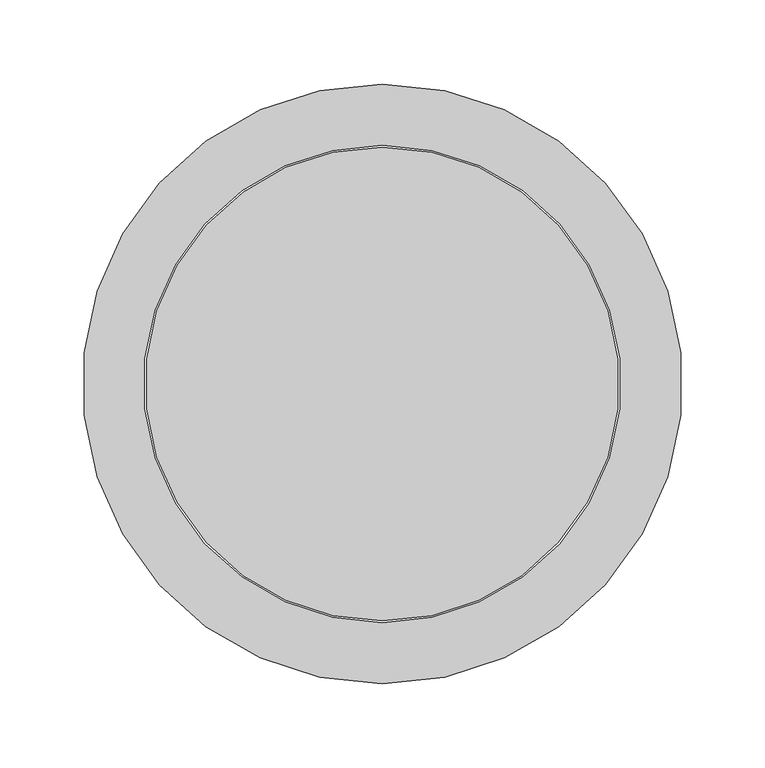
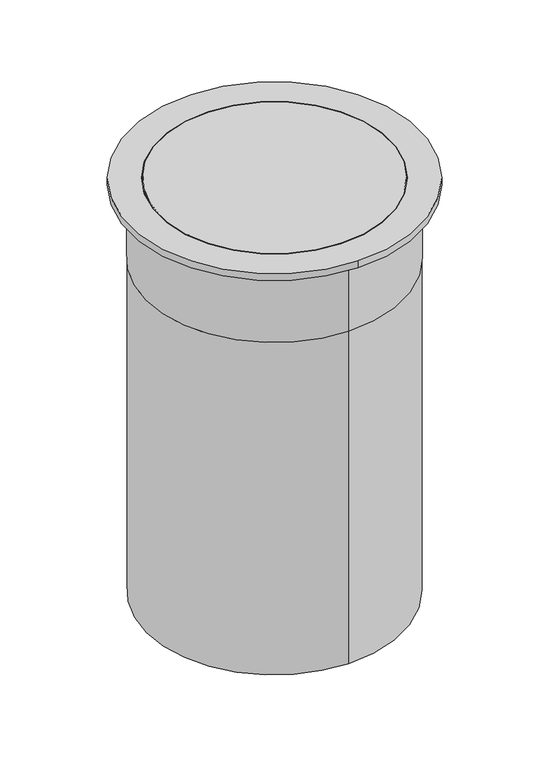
"""IFC4 building model written with IfcOpenShell, lengths in millimetres: valve geometry, Pipelife - Studnia PRO - Teleskop 315 lita : 40.0t/315/400 D400 SN8 lita."""

import ifcopenshell
import ifcopenshell.guid

model = None  # the IFC model being written
_history = None  # IfcOwnerHistory: only IFC2X3 demands one
_inside = {}  # id of a spatial element -> (the spatial element, [elements in it])
_under = {}  # id of a project, library or spatial element -> (it, [spatial elements below it])
_declared = {}  # id of a project -> (the project, [libraries it declares])
_typed = {}  # id of a type object -> (the type object, [elements of that type])
_made_of = {}  # id of a material, layer set ... -> (it, [elements and type objects made of it])


def new_model(schema):
    """Start an empty IFC model of exactly this schema.

    Asked for "IFC4X3", IfcOpenShell would pick the latest addendum, in which some entities
    have other attributes; the version numbers below select the first issue.
    IFC2X3 requires an IfcOwnerHistory on every rooted entity: one is made here for all.
    """
    global model, _history
    if schema == "IFC4X3":
        model = ifcopenshell.file(schema_version=(4, 3, 0, 0))
    else:
        model = ifcopenshell.file(schema=schema)
    _inside.clear()
    _under.clear()
    _declared.clear()
    _typed.clear()
    _made_of.clear()
    _history = None
    if model.schema == "IFC2X3":
        org = make("IfcOrganization", Name="unknown")
        user = make(
            "IfcPersonAndOrganization",
            ThePerson=make("IfcPerson", FamilyName="unknown"),
            TheOrganization=org,
        )
        app = make(
            "IfcApplication",
            ApplicationDeveloper=org,
            Version="unknown",
            ApplicationFullName="unknown",
            ApplicationIdentifier="unknown",
        )
        _history = make(
            "IfcOwnerHistory",
            OwningUser=user,
            OwningApplication=app,
            ChangeAction="ADDED",
            CreationDate=0,
        )
    return model


def make(cls, **values):
    """One entity of the class cls with the attributes given. An attribute that is None is left unset."""
    return model.create_entity(
        cls, **{name: value for name, value in values.items() if value is not None}
    )


def rooted(cls, **values):
    """An entity with a GlobalId (a new one), such as an element, a storey or a relation."""
    return make(cls, GlobalId=ifcopenshell.guid.new(), OwnerHistory=_history, **values)


def si_unit(unit_type, name, prefix=None):
    """IfcSIUnit, for example si_unit("LENGTHUNIT", "METRE", prefix="MILLI")."""
    return make("IfcSIUnit", UnitType=unit_type, Prefix=prefix, Name=name)


def assignment(units):
    """IfcUnitAssignment: the units of a project."""
    return None if units is None else make("IfcUnitAssignment", Units=units)


def point(xyz):
    """IfcCartesianPoint."""
    return None if xyz is None else make("IfcCartesianPoint", Coordinates=xyz)


def direction(xyz):
    """IfcDirection."""
    return None if xyz is None else make("IfcDirection", DirectionRatios=xyz)


def frame(location, z_axis=None, x_axis=None):
    """IfcAxis2Placement3D, a coordinate frame: its origin and axes. An axis left out is left unset."""
    return make(
        "IfcAxis2Placement3D",
        Location=point(location),
        Axis=direction(z_axis),
        RefDirection=direction(x_axis),
    )


def frame_2d(location, x_axis=None):
    """IfcAxis2Placement2D, a coordinate frame in the plane: its origin and x axis."""
    return make(
        "IfcAxis2Placement2D", Location=point(location), RefDirection=direction(x_axis)
    )


def origin():
    """The frame at (0, 0, 0) with its axes left unset."""
    return frame((0.0, 0.0, 0.0))


def origin_2d():
    """The frame at (0, 0) in the plane with its x axis left unset."""
    return frame_2d((0.0, 0.0))


def place(relative_to, where):
    """IfcLocalPlacement: puts the frame where relative to a parent placement (None: the world)."""
    return make(
        "IfcLocalPlacement", PlacementRelTo=relative_to, RelativePlacement=where
    )


def context(
    kind, dimensions, precision=None, world=None, true_north=None, identifier=None
):
    """IfcGeometricRepresentationContext, for example the 3D "Model" context."""
    return make(
        "IfcGeometricRepresentationContext",
        ContextIdentifier=identifier,
        ContextType=kind,
        CoordinateSpaceDimension=dimensions,
        Precision=precision,
        WorldCoordinateSystem=world,
        TrueNorth=true_north,
    )


def project(units=None, contexts=None):
    """IfcProject with its units and contexts."""
    return rooted(
        "IfcProject",
        Name="project",
        RepresentationContexts=contexts,
        UnitsInContext=assignment(units),
    )


def spatial(cls, under=None, at=None, **own):
    """A site, building, storey or space (cls), placed at a placement, below another one or the project."""
    s = rooted(cls, ObjectPlacement=at, **own)
    if under is not None:
        _under.setdefault(under.id(), (under, []))[1].append(s)
    return s


def polyline(points):
    """IfcPolyline through the points."""
    return make("IfcPolyline", Points=[point(p) for p in points])


def circle_curve(where, radius):
    """IfcCircle in the frame where."""
    return make("IfcCircle", Position=where, Radius=radius)


def trimmed(basis, trim1, trim2, sense, master):
    """IfcTrimmedCurve: the piece of a basis curve between two trims."""
    return make(
        "IfcTrimmedCurve",
        BasisCurve=basis,
        Trim1=trim1,
        Trim2=trim2,
        SenseAgreement=sense,
        MasterRepresentation=master,
    )


def segment(curve, same_sense, transition):
    """IfcCompositeCurveSegment."""
    return make(
        "IfcCompositeCurveSegment",
        Transition=transition,
        SameSense=same_sense,
        ParentCurve=curve,
    )


def composite_curve(segments, self_intersect=None):
    """IfcCompositeCurve: segments joined end to end."""
    return make("IfcCompositeCurve", Segments=segments, SelfIntersect=self_intersect)


def outline(outer, holes=None, kind="AREA"):
    """IfcArbitraryClosedProfileDef: a profile drawn as a closed curve; with holes, ...WithVoids."""
    if holes is None:
        return make("IfcArbitraryClosedProfileDef", ProfileType=kind, OuterCurve=outer)
    return make(
        "IfcArbitraryProfileDefWithVoids",
        ProfileType=kind,
        OuterCurve=outer,
        InnerCurves=holes,
    )


def extrude(swept, where, along, depth):
    """IfcExtrudedAreaSolid: the profile swept, set in the frame where, extruded along a direction by depth."""
    return make(
        "IfcExtrudedAreaSolid",
        SweptArea=swept,
        Position=where,
        ExtrudedDirection=direction(along),
        Depth=depth,
    )


def shape(context_of_items, identifier, shape_type, items):
    """IfcShapeRepresentation: the items that make up one representation, for example the "Body"."""
    return make(
        "IfcShapeRepresentation",
        ContextOfItems=context_of_items,
        RepresentationIdentifier=identifier,
        RepresentationType=shape_type,
        Items=items,
    )


def source(mapping_origin, context_of_items, identifier, shape_type, items):
    """IfcRepresentationMap: a shape defined once, which mapped items show again and again."""
    return make(
        "IfcRepresentationMap",
        MappingOrigin=mapping_origin,
        MappedRepresentation=shape(context_of_items, identifier, shape_type, items),
    )


def transform(
    local_origin,
    x_axis=None,
    y_axis=None,
    z_axis=None,
    scale=None,
    scale2=None,
    scale3=None,
    uniform=True,
):
    """IfcCartesianTransformationOperator3D, or its non-uniform kind. x_axis, y_axis, z_axis: its Axis1, 2, 3."""
    if uniform:
        return make(
            "IfcCartesianTransformationOperator3D",
            Axis1=direction(x_axis),
            Axis2=direction(y_axis),
            LocalOrigin=point(local_origin),
            Scale=scale,
            Axis3=direction(z_axis),
        )
    return make(
        "IfcCartesianTransformationOperator3DnonUniform",
        Axis1=direction(x_axis),
        Axis2=direction(y_axis),
        LocalOrigin=point(local_origin),
        Scale=scale,
        Axis3=direction(z_axis),
        Scale2=scale2,
        Scale3=scale3,
    )


def mapped(mapping_source, mapping_target):
    """IfcMappedItem: shows the shape of a source again, moved by a transform."""
    return make(
        "IfcMappedItem", MappingSource=mapping_source, MappingTarget=mapping_target
    )


def made_of(thing, what):
    """Note that an element or type object is made of a material, layer set ...; save() writes the relation."""
    if what is not None:
        _made_of.setdefault(what.id(), (what, []))[1].append(thing)
    return thing


def element(
    cls,
    number,
    at=None,
    inside=None,
    cuts=None,
    type_object=None,
    material=None,
    context=None,
    identifier="Body",
    shape_type=None,
    held_by="IfcProductDefinitionShape",
    body=None,
    shapes=None,
    **own,
):
    """One element of the class cls, such as IfcWall. Its Tag is "e" and its number.

    at: its placement. inside: the storey or other place that contains it. cuts: it is an
    opening in that element (IfcRelVoidsElement). A single representation is given by context,
    identifier, shape_type and body (its items); several are given by shapes. held_by: the class
    of the entity that holds the representations. save() writes the other relations.
    """
    e = rooted(cls, Tag="e%d" % number, ObjectPlacement=at, **own)
    if body is not None:
        shapes = [shape(context, identifier, shape_type, body)]
    if shapes is not None:
        e.Representation = make(held_by, Representations=shapes)
    if inside is not None:
        _inside.setdefault(inside.id(), (inside, []))[1].append(e)
    if cuts is not None:
        rooted(
            "IfcRelVoidsElement", RelatingBuildingElement=cuts, RelatedOpeningElement=e
        )
    if type_object is not None:
        _typed.setdefault(type_object.id(), (type_object, []))[1].append(e)
    return made_of(e, material)


def aggregate(whole, parts):
    """IfcRelAggregates: a whole, such as a stair, and the parts it consists of."""
    return rooted("IfcRelAggregates", RelatingObject=whole, RelatedObjects=parts)


def save(model, path):
    """Write the relations noted so far, then the file.

    IfcRelAggregates (storeys below a building ...), IfcRelContainedInSpatialStructure (elements
    in a storey), IfcRelDefinesByType, IfcRelAssociatesMaterial and IfcRelDeclares: one each for
    every whole, place, type object, material and project.
    """
    for whole, parts in _under.values():
        aggregate(whole, parts)
    for where, things in _inside.values():
        rooted(
            "IfcRelContainedInSpatialStructure",
            RelatedElements=things,
            RelatingStructure=where,
        )
    for kind, things in _typed.values():
        rooted("IfcRelDefinesByType", RelatedObjects=things, RelatingType=kind)
    for what, things in _made_of.values():
        rooted("IfcRelAssociatesMaterial", RelatedObjects=things, RelatingMaterial=what)
    for by, libraries in _declared.values():
        rooted("IfcRelDeclares", RelatingContext=by, RelatedDefinitions=libraries)
    model.write(path)


def plane_surface(at):
    """IfcPlane: the flat surface through the origin of the frame at, square to its z axis."""
    return make("IfcPlane", Position=at)


def cylinder_surface(at, radius):
    """IfcCylindricalSurface: all points at the distance radius from the z axis of the frame at."""
    return make("IfcCylindricalSurface", Position=at, Radius=radius)


def revolved_surface(curve, axis_point, axis_direction):
    """IfcSurfaceOfRevolution: the curve turned about the line through axis_point along axis_direction."""
    return make(
        "IfcSurfaceOfRevolution",
        SweptCurve=make("IfcArbitraryOpenProfileDef", ProfileType="CURVE", Curve=curve),
        AxisPosition=make("IfcAxis1Placement", Location=point(axis_point), Axis=direction(axis_direction)),
    )


def advanced_brep(points, edges, surfaces, faces):
    """IfcAdvancedBrep: a solid bounded by faces that lie on surfaces and meet in shared edges.

    An edge is (start, end): straight between two places in points (the first is 0);
    or (start, end, curve); or (start, end, curve, False) where it runs against its curve.
    A face is (place in surfaces, loops), or (place, loops, False) where it looks against
    its surface's normal. A loop lists edges by number (the first is 1), with a minus sign
    where the edge is run from its end to its start. The first loop is the outer one.
    """
    corners = [point(p) for p in points]
    vertices = [make("IfcVertexPoint", VertexGeometry=c) for c in corners]
    made = []
    for start, end, *more in edges:
        made.append(
            make(
                "IfcEdgeCurve",
                EdgeStart=vertices[start],
                EdgeEnd=vertices[end],
                EdgeGeometry=more[0] if more else make("IfcPolyline", Points=[corners[start], corners[end]]),
                SameSense=more[1] if len(more) > 1 else True,
            )
        )
    hull = []
    for where, loops, *sense in faces:
        bounds = []
        for j, loop in enumerate(loops):
            ring = [make("IfcOrientedEdge", EdgeElement=made[abs(k) - 1], Orientation=k > 0) for k in loop]
            bounds.append(
                make(
                    "IfcFaceOuterBound" if j == 0 else "IfcFaceBound",
                    Bound=make("IfcEdgeLoop", EdgeList=ring),
                    Orientation=True,
                )
            )
        hull.append(make("IfcAdvancedFace", Bounds=bounds, FaceSurface=surfaces[where], SameSense=sense[0] if sense else True))
    return make("IfcAdvancedBrep", Outer=make("IfcClosedShell", CfsFaces=hull))


def valve_fa0df5e9(model_context):
    return source(origin(), model_context, "Body", "SolidModel", [
        extrude(outline(composite_curve([segment(trimmed(circle_curve(origin_2d(), 141.0), [point((0.0, 141.0))], [point((0.0, -141.0))], False, "CARTESIAN"), True, "CONTINUOUS"), segment(trimmed(circle_curve(origin_2d(), 141.0), [point((0.0, -141.0))], [point((0.0, 141.0))], False, "CARTESIAN"), True, "CONTINUOUS")], self_intersect=False)), frame((0.0, 0.0, 324.0), z_axis=(0.0, 0.0, 1.0), x_axis=(1.0, 0.0, 0.0)), (0.0, 0.0, 1.0), 13.0),
        advanced_brep(
        [(0.0, 158.0, 233.0), (0.0, -158.0, 233.0), (0.0, 148.5, 233.0), (0.0, -148.5, 233.0), (0.0, -158.0, 328.0), (0.0, 158.0, 328.0), (0.0, 148.5, 324.0), (0.0, -148.5, 324.0), (0.0, -142.0, 328.0), (0.0, 142.0, 328.0), (0.0, 142.0, 324.0), (0.0, -142.0, 324.0)],
        [
            (0, 1, circle_curve(frame((0.0, 0.0, 233.0), z_axis=(0.0, 0.0, -1.0), x_axis=(0.0, -1.0, 0.0)), 158.0)),
            (1, 0, circle_curve(frame((0.0, 0.0, 233.0), z_axis=(0.0, 0.0, -1.0), x_axis=(0.0, -1.0, 0.0)), 158.0)),
            (2, 3, circle_curve(frame((0.0, 0.0, 233.0), z_axis=(0.0, 0.0, 1.0), x_axis=(0.0, -1.0, 0.0)), 148.5)),
            (3, 2, circle_curve(frame((0.0, 0.0, 233.0), z_axis=(0.0, 0.0, 1.0), x_axis=(0.0, -1.0, 0.0)), 148.5)),
            (4, 5, circle_curve(frame((0.0, 0.0, 328.0), z_axis=(0.0, 0.0, -1.0), x_axis=(0.0, -1.0, 0.0)), 158.0)),
            (5, 0),
            (1, 4),
            (5, 4, circle_curve(frame((0.0, 0.0, 328.0), z_axis=(0.0, 0.0, -1.0), x_axis=(0.0, -1.0, 0.0)), 158.0)),
            (6, 7, circle_curve(frame((0.0, 0.0, 324.0), z_axis=(0.0, 0.0, 1.0), x_axis=(0.0, -1.0, 0.0)), 148.5)),
            (7, 3),
            (2, 6),
            (7, 6, circle_curve(frame((0.0, 0.0, 324.0), z_axis=(0.0, 0.0, 1.0), x_axis=(0.0, -1.0, 0.0)), 148.5)),
            (8, 9, circle_curve(frame((0.0, 0.0, 328.0), z_axis=(0.0, 0.0, -1.0), x_axis=(0.0, -1.0, 0.0)), 142.0)),
            (9, 8, circle_curve(frame((0.0, 0.0, 328.0), z_axis=(0.0, 0.0, -1.0), x_axis=(0.0, -1.0, 0.0)), 142.0)),
            (10, 11, circle_curve(frame((0.0, 0.0, 324.0), z_axis=(0.0, 0.0, 1.0), x_axis=(0.0, -1.0, 0.0)), 142.0)),
            (11, 10, circle_curve(frame((0.0, 0.0, 324.0), z_axis=(0.0, 0.0, 1.0), x_axis=(0.0, -1.0, 0.0)), 142.0)),
            (10, 9),
            (8, 11),
        ],
        [
            plane_surface(frame((0.0, 0.0, 233.0), z_axis=(0.0, 0.0, -1.0), x_axis=(0.0, -1.0, 0.0))),
            cylinder_surface(frame((0.0, 0.0, 328.0), z_axis=(0.0, 0.0, 1.0), x_axis=(0.0, -1.0, 0.0)), 158.0),
            revolved_surface(polyline([(0.0, -148.5, 324.0), (0.0, -148.5, 233.0)]), (0.0, 0.0, 324.0), (0.0, 0.0, 1.0)),
            plane_surface(frame((0.0, 0.0, 328.0), z_axis=(0.0, 0.0, 1.0), x_axis=(0.0, -1.0, 0.0))),
            plane_surface(frame((0.0, 0.0, 324.0), z_axis=(0.0, 0.0, -1.0), x_axis=(0.0, -1.0, 0.0))),
            revolved_surface(polyline([(0.0, -142.0, 328.0), (0.0, -142.0, 324.0)]), (0.0, 0.0, 337.0), (0.0, 0.0, 1.0)),
        ],
        [
            (0, [[1, 2], [3, 4]]),
            (1, [[5, 6, -2, 7]]),
            (1, [[8, -7, -1, -6]]),
            (2, [[9, 10, -3, 11]]),
            (2, [[12, -11, -4, -10]]),
            (3, [[-5, -8], [13, 14]]),
            (4, [[-12, -9], [15, 16]]),
            (5, [[17, -13, 18, -15]]),
            (5, [[-17, -16, -18, -14]]),
        ],
    ),
        extrude(outline(composite_curve([segment(trimmed(circle_curve(origin_2d(), 157.5), [point((0.0, 157.5))], [point((0.0, -157.5))], False, "CARTESIAN"), True, "CONTINUOUS"), segment(trimmed(circle_curve(origin_2d(), 157.5), [point((0.0, -157.5))], [point((0.0, 157.5))], False, "CARTESIAN"), True, "CONTINUOUS")], self_intersect=False), holes=[composite_curve([segment(trimmed(circle_curve(origin_2d(), 148.5), [point((0.0, 148.5))], [point((0.0, -148.5))], True, "CARTESIAN"), True, "CONTINUOUS"), segment(trimmed(circle_curve(origin_2d(), 148.5), [point((0.0, -148.5))], [point((0.0, 148.5))], True, "CARTESIAN"), True, "CONTINUOUS")], self_intersect=False)]), frame((0.0, 0.0, -200.0), z_axis=(0.0, 0.0, 1.0), x_axis=(1.0, 0.0, 0.0)), (0.0, 0.0, 1.0), 433.0),
        extrude(outline(composite_curve([segment(trimmed(circle_curve(origin_2d(), 178.5), [point((0.0, 178.5))], [point((0.0, -178.5))], False, "CARTESIAN"), True, "CONTINUOUS"), segment(trimmed(circle_curve(origin_2d(), 178.5), [point((0.0, -178.5))], [point((0.0, 178.5))], False, "CARTESIAN"), True, "CONTINUOUS")], self_intersect=False), holes=[composite_curve([segment(trimmed(circle_curve(origin_2d(), 142.0), [point((0.0, 142.0))], [point((0.0, -142.0))], True, "CARTESIAN"), True, "CONTINUOUS"), segment(trimmed(circle_curve(origin_2d(), 142.0), [point((0.0, -142.0))], [point((0.0, 142.0))], True, "CARTESIAN"), True, "CONTINUOUS")], self_intersect=False)]), frame((0.0, 0.0, 328.0), z_axis=(0.0, 0.0, 1.0), x_axis=(1.0, 0.0, 0.0)), (0.0, 0.0, 1.0), 9.0),
    ])


if __name__ == "__main__":
    model = new_model("IFC4")
    model_context = context("Model", 3, world=origin())
    ifc_project = project(units=[si_unit("LENGTHUNIT", "METRE", prefix="MILLI")], contexts=[model_context])
    site = spatial("IfcSite", under=ifc_project)
    building = spatial("IfcBuilding", under=site)
    placement = place(None, origin())
    valve_shape = valve_fa0df5e9(model_context)
    element("IfcValve", 1, ObjectType="Pipelife - Studnia PRO - Teleskop 315 lita : 40.0t/315/400 D400 SN8 lita", at=placement, inside=building, context=model_context, shape_type="MappedRepresentation", body=[
        mapped(valve_shape, transform((0.0, 0.0, 0.0), x_axis=(1.0, 0.0, 0.0), y_axis=(0.0, 1.0, 0.0), z_axis=(0.0, 0.0, 1.0))),
    ])
    save(model, "model.ifc")
